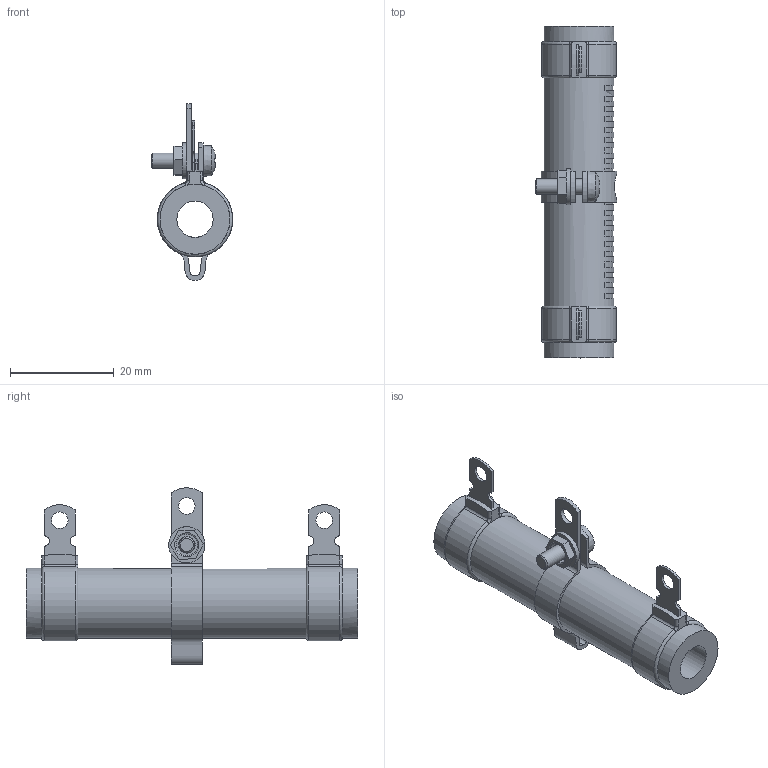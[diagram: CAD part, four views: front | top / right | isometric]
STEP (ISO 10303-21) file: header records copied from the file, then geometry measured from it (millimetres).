
FILE_DESCRIPTION(/* description */ (''),/* implementation_level */ '2;1');
FILE_NAME(/* name */ 'C:\_Vault\Dati\CATALOGO\RCA-RSA\R 25-1000\3D\RCAR 26.stp',/* time_stamp */ '2014-03-18T18:00:26+01:00',/* author */ ('stefano'),/* organization */ (''),/* preprocessor_version */ 'ST-DEVELOPER v15.2',/* originating_system */ 'Autodesk Inventor 2014',/* authorisation */ '');
FILE_SCHEMA (('AUTOMOTIVE_DESIGN { 1 0 10303 214 3 1 1 }'));
Length unit declared in the file: millimetre
Products named in the file (1): RCAR 26
Bounding box: 15.75 x 64 x 34.03 mm (x, y, z)
Volume: 7531.2 mm3; surface area: 5578.4 mm2
Topology: 1 solids, 1 shells, 250 faces, 627 edges, 405 vertices
Faces by surface type: plane 148, cylinder 66, cone 18, torus 13, bspline 4, sphere 1
Full cylindrical faces by diameter (mm): 2.75 x1, 3 x1, 3.2 x5, 4.134 x1, 7 x2, 13.5 x3
Entity records: 7881 total; most frequent: CARTESIAN_POINT 1593, DIRECTION 1286, ORIENTED_EDGE 1190, EDGE_CURVE 595, AXIS2_PLACEMENT_3D 484, VERTEX_POINT 395, LINE 318, VECTOR 318
